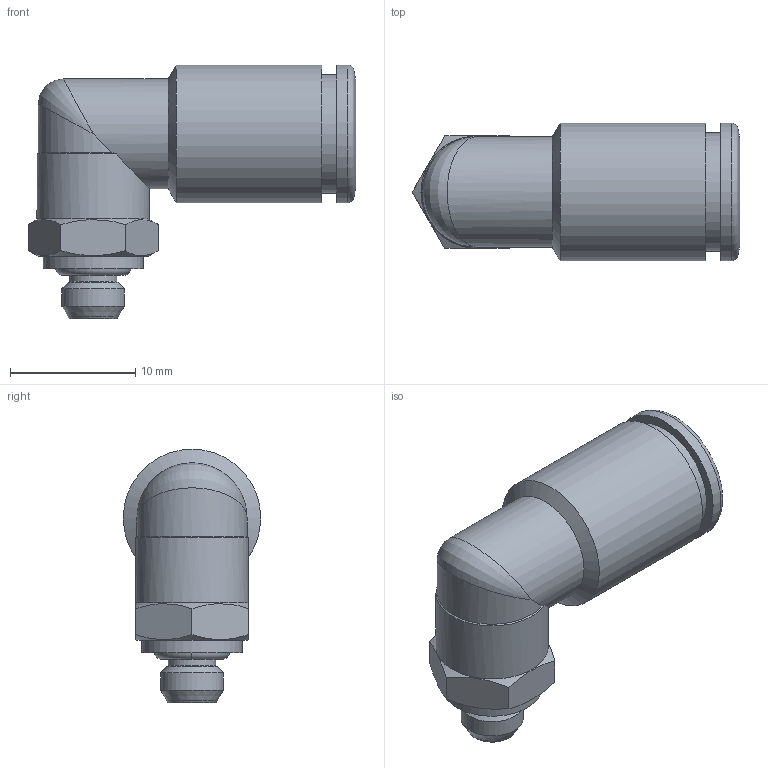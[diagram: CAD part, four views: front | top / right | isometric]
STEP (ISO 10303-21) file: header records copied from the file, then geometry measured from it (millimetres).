
FILE_DESCRIPTION(('Bauteilbeschreibung','HiCAD-Model','HiCAD-STEP-TRANSLATION','Bauteilbeschreibung'),'2;1');
FILE_NAME('B:/ABGLEICH/ZEICHNUNGEN/STEP FÜR INTERNET/STEP/IPSO 022/202215_IPSO_022_6_M5.STP','2012-02-06T13:45:42+00:00',('Konstrukteur'),('Konstrukteur Firma GmbH'),' HiCAD neXt 2008, Step 3.1.1401.2J ','HiCAD neXt 2008','confidential');
FILE_SCHEMA(('AUTOMOTIVE_DESIGN { 1 2 10303 214 0 1 1 1 }'));
Length unit declared in the file: millimetre
Products named in the file (7): A02215_IPSO_022_6_M5; OR 4X1_2; DR6_1_NEU; A14601_N2; A146010N2; DIN 13_M5; R202215_N2
Assembly tree (6 placements, depth 3):
  A02215_IPSO_022_6_M5
    OR 4X1_2
    DR6_1_NEU
    A14601_N2
    A146010N2
      DIN 13_M5
    R202215_N2
Bounding box: 26.2 x 11 x 20.3 mm (x, y, z)
Volume: 1652.6 mm3; surface area: 2632.9 mm2
Topology: 5 solids, 5 shells, 73 faces, 163 edges, 100 vertices
Faces by surface type: cylinder 23, cone 22, plane 20, torus 7, bspline 1
Full cylindrical faces by diameter (mm): 2.6 x1, 3.8 x1, 4 x1, 4.019 x2, 5 x1, 6.1 x1, 6.2 x1, 6.8 x2, 7.85 x1, 7.9 x1, 8 x1, 8.3 x1, 8.8 x1, 9 x2, 9.5 x1, 9.6 x1, 11 x2
Entity records: 3324 total; most frequent: CARTESIAN_POINT 1401, DIRECTION 314, ORIENTED_EDGE 196, AXIS2_PLACEMENT_3D 153, EDGE_LOOP 131, EDGE_CURVE 98, COLOUR_RGB 86, PRESENTATION_STYLE_ASSIGNMENT 86
